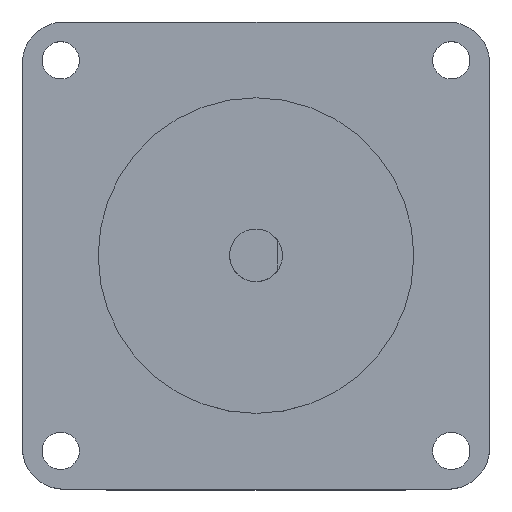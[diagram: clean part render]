
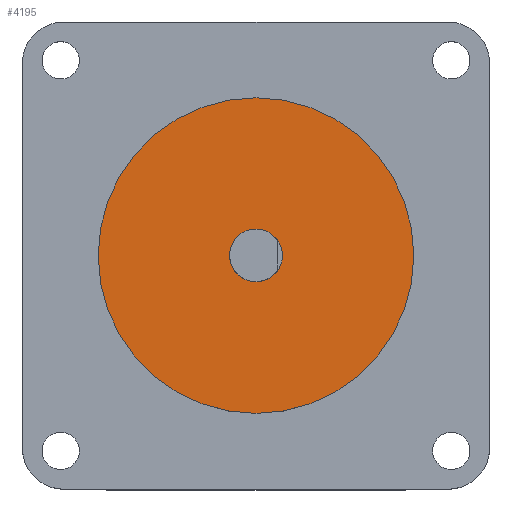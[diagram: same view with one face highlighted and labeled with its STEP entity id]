
A CAD part, top view. The second image highlights one B-rep face of the part: STEP entity #4195.
In plain terms, the highlighted planar face has unit normal (0, 0, 1).
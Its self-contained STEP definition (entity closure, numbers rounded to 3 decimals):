
#280 = AXIS2_PLACEMENT_3D ( 'NONE', #2778, #780, #3101 ) ;
#294 = CARTESIAN_POINT ( 'NONE',  ( -19.05, 0., 1.6 ) ) ;
#499 = CARTESIAN_POINT ( 'NONE',  ( -3.175, 0., 1.6 ) ) ;
#610 = ORIENTED_EDGE ( 'NONE', *, *, #1090, .T. ) ;
#677 = PLANE ( 'NONE',  #1494 ) ;
#780 = DIRECTION ( 'NONE',  ( 0., 0., 1. ) ) ;
#873 = CIRCLE ( 'NONE', #280, 19.05 ) ;
#902 = ORIENTED_EDGE ( 'NONE', *, *, #2851, .T. ) ;
#935 = EDGE_LOOP ( 'NONE', ( #2909, #902 ) ) ;
#1012 = DIRECTION ( 'NONE',  ( 1., 0., 0. ) ) ;
#1090 = EDGE_CURVE ( 'NONE', #3757, #3646, #3769, .T. ) ;
#1290 = DIRECTION ( 'NONE',  ( 0., 0., -1. ) ) ;
#1426 = CARTESIAN_POINT ( 'NONE',  ( 19.05, 0., 1.6 ) ) ;
#1494 = AXIS2_PLACEMENT_3D ( 'NONE', #2340, #3004, #1012 ) ;
#1626 = EDGE_CURVE ( 'NONE', #4066, #2126, #3131, .T. ) ;
#1715 = CARTESIAN_POINT ( 'NONE',  ( 0., 0., 1.6 ) ) ;
#1858 = CARTESIAN_POINT ( 'NONE',  ( 0., 0., 1.6 ) ) ;
#1891 = FACE_OUTER_BOUND ( 'NONE', #935, .T. ) ;
#1984 = FACE_BOUND ( 'NONE', #3464, .T. ) ;
#2041 = DIRECTION ( 'NONE',  ( 1., 0., 0. ) ) ;
#2126 = VERTEX_POINT ( 'NONE', #1426 ) ;
#2198 = DIRECTION ( 'NONE',  ( 1., 0., 0. ) ) ;
#2233 = CARTESIAN_POINT ( 'NONE',  ( 3.175, 0., 1.6 ) ) ;
#2340 = CARTESIAN_POINT ( 'NONE',  ( 0., 0., 1.6 ) ) ;
#2631 = AXIS2_PLACEMENT_3D ( 'NONE', #3269, #1290, #3584 ) ;
#2680 = ORIENTED_EDGE ( 'NONE', *, *, #2973, .T. ) ;
#2778 = CARTESIAN_POINT ( 'NONE',  ( 0., 0., 1.6 ) ) ;
#2851 = EDGE_CURVE ( 'NONE', #2126, #4066, #873, .T. ) ;
#2909 = ORIENTED_EDGE ( 'NONE', *, *, #1626, .T. ) ;
#2939 = AXIS2_PLACEMENT_3D ( 'NONE', #1858, #4134, #2198 ) ;
#2973 = EDGE_CURVE ( 'NONE', #3646, #3757, #3510, .T. ) ;
#3004 = DIRECTION ( 'NONE',  ( 0., 0., 1. ) ) ;
#3101 = DIRECTION ( 'NONE',  ( 1., 0., 0. ) ) ;
#3131 = CIRCLE ( 'NONE', #3987, 19.05 ) ;
#3269 = CARTESIAN_POINT ( 'NONE',  ( 0., 0., 1.6 ) ) ;
#3464 = EDGE_LOOP ( 'NONE', ( #2680, #610 ) ) ;
#3510 = CIRCLE ( 'NONE', #2939, 3.175 ) ;
#3584 = DIRECTION ( 'NONE',  ( 1., 0., 0. ) ) ;
#3646 = VERTEX_POINT ( 'NONE', #499 ) ;
#3757 = VERTEX_POINT ( 'NONE', #2233 ) ;
#3769 = CIRCLE ( 'NONE', #2631, 3.175 ) ;
#3987 = AXIS2_PLACEMENT_3D ( 'NONE', #1715, #3989, #2041 ) ;
#3989 = DIRECTION ( 'NONE',  ( 0., 0., 1. ) ) ;
#4066 = VERTEX_POINT ( 'NONE', #294 ) ;
#4134 = DIRECTION ( 'NONE',  ( 0., 0., -1. ) ) ;
#4195 = ADVANCED_FACE ( 'NONE', ( #1891, #1984 ), #677, .T. ) ;
